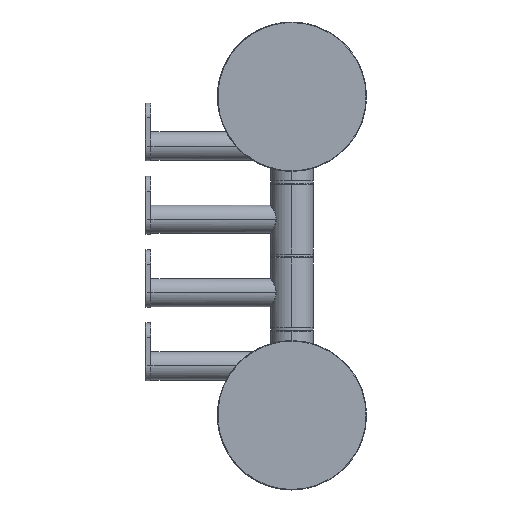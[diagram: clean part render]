
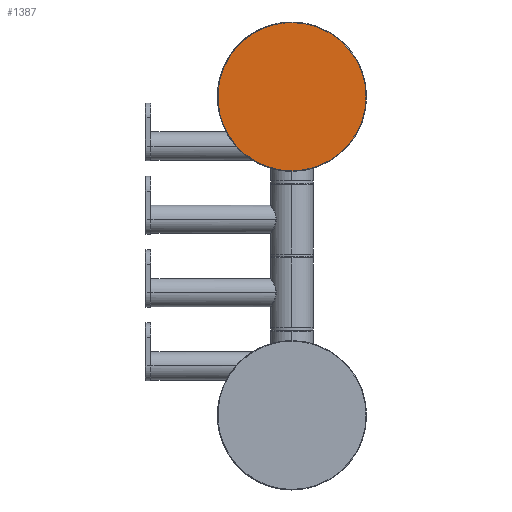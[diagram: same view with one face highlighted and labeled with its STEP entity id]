
A CAD part, front view. The second image highlights one B-rep face of the part: STEP entity #1387.
In plain terms, the highlighted planar face has unit normal (0, -1, 0).
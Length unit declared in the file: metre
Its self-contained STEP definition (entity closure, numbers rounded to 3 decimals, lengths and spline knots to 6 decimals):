
#1058=EDGE_CURVE('',#1059,#1062,#1064,.F.);
#1059=VERTEX_POINT('',#1060);
#1060=CARTESIAN_POINT('',(0.0,0.0,0.0263));
#1061=CARTESIAN_POINT('',(0.0,0.0,-0.0263));
#1062=VERTEX_POINT('',#1063);
#1063=CARTESIAN_POINT('',(0.0,0.0,-0.0263));
#1064=(B_SPLINE_CURVE(3,(#1061,#1065,#1066,#1067),.UNSPECIFIED.,.F.,.U.)B_SPLINE_CURVE_WITH_KNOTS(
  (4,4),(0.0,1.0),.UNSPECIFIED.)BOUNDED_CURVE()CURVE()GEOMETRIC_REPRESENTATION_ITEM(
  )RATIONAL_B_SPLINE_CURVE((1.0,0.333,0.333,1.0)
  )REPRESENTATION_ITEM(''));
#1065=CARTESIAN_POINT('',(-0.0526,0.0,-0.0263));
#1066=CARTESIAN_POINT('',(-0.0526,0.0,0.0263));
#1067=CARTESIAN_POINT('',(0.0,0.0,0.0263));
#1387=ADVANCED_FACE('',(#1393),#1388,.F.);
#1388=PLANE('',#1389);
#1389=AXIS2_PLACEMENT_3D('',#1390,#1391,#1392);
#1390=CARTESIAN_POINT('',(0.0,0.0,-0.0265));
#1391=DIRECTION('',(0.0,1.0,0.0));
#1392=DIRECTION('',(0.,0.0,-1.0));
#1393=FACE_OUTER_BOUND('',#1394,.T.);
#1394=EDGE_LOOP('',(#1395,#1403));
#1395=ORIENTED_EDGE('',*,*,#1396,.T.);
#1396=EDGE_CURVE('',#1062,#1059,#1397,.F.);
#1397=CIRCLE('',#1398,0.0263);
#1398=AXIS2_PLACEMENT_3D('',#1399,#1400,#1401);
#1399=CARTESIAN_POINT('',(0.0,0.0,0.0));
#1400=DIRECTION('',(0.0,1.0,0.0));
#1401=DIRECTION('',(0.0,0.0,1.0));
#1403=ORIENTED_EDGE('',*,*,#1058,.T.);
